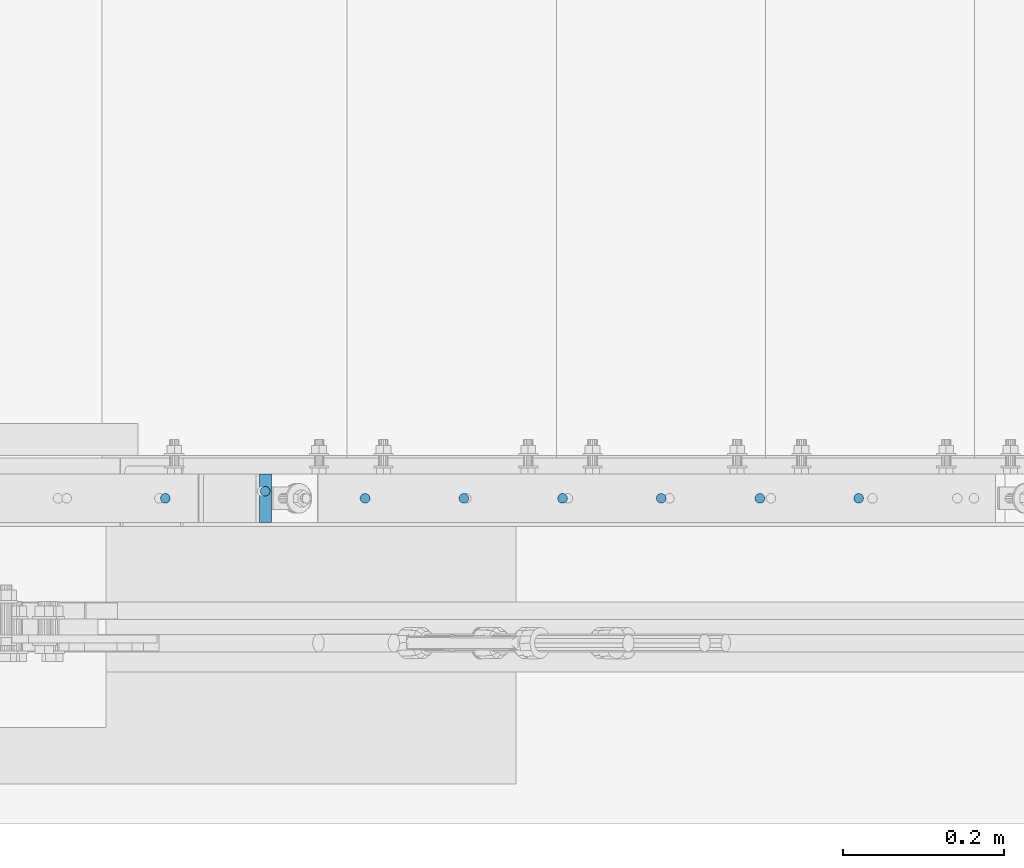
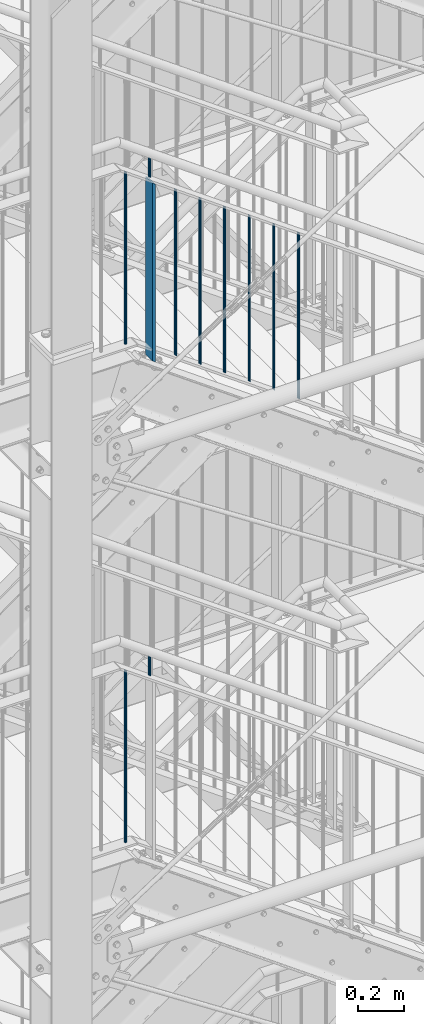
# One storey, part 34 of 821: 11 columns.
"""IFC2X3 building model written with IfcOpenShell, lengths in millimetres."""

from ifc_helpers import new_model, entity, si_unit, converted_unit, frame, origin, origin_with_axes, origin_2d, place, context, project, spatial, rectangle, circle, extrude, clip, halfspace, material, element, save


model = new_model("IFC2X3")

# Units and contexts
model_context = context("Model", 3, precision=1e-09, world=origin_with_axes())
ifc_project = project(units=[si_unit("LENGTHUNIT", "METRE", prefix="MILLI"), si_unit("AREAUNIT", "SQUARE_METRE"), si_unit("VOLUMEUNIT", "CUBIC_METRE"), converted_unit("PLANEANGLEUNIT", "DEGREE", entity("IfcPlaneAngleMeasure", 0.01745329), si_unit("PLANEANGLEUNIT", "RADIAN"), dimensions=[0, 0, 0, 0, 0, 0, 0])], contexts=[model_context])

# Site, building, storey
site_placement = place(None, origin_with_axes())
site = spatial("IfcSite", under=ifc_project, at=site_placement, Name="Cnopf'sche Kinderklinik", CompositionType="ELEMENT")
building_placement = place(site_placement, origin_with_axes())
building = spatial("IfcBuilding", under=site, at=building_placement, Name="Struktur 1", CompositionType="ELEMENT")
storey_placement = place(building_placement, origin_with_axes())
storey = spatial("IfcBuildingStorey", under=building, at=storey_placement, Name="Default Storey", CompositionType="ELEMENT", Elevation=0.0)

# Columns
ifc_material = material(Name="S235JR")
column_1_placement = place(None, frame((5270.541831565, 4526.736971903, 10939.508705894), z_axis=(0.0, 0.0, 1.0), x_axis=(-1.0, 0.0, 0.0)))
element("IfcColumn", 1, at=column_1_placement, inside=storey, material=ifc_material, Name="Railing_Picket_Landing#76", ObjectType="Railing_Picket_Landing#76", context=model_context, shape_type="Clipping", body=[
    clip(extrude(circle(Radius=6.0, at=origin_2d()), origin(), (0.0, 0.0, -1.0), 917.508705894), halfspace(frame((-1728.344233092, 4526.736971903, -1260.198190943), z_axis=(0.585945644, 0.0, -0.810350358), x_axis=(0.0, 1.0, 0.0)), True)),
])
column_2_placement = place(None, frame((5394.791831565, 4535.536971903, 10962.006739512), z_axis=(0.0, 0.0, 1.0), x_axis=(0.0, 1.0, 0.0)))
element("IfcColumn", 2, at=column_2_placement, inside=storey, material=ifc_material, Name="Bar#11", ObjectType="Bar#11", context=model_context, shape_type="Clipping", body=[
    clip(clip(extrude(circle(Radius=6.0, at=origin_2d()), origin(), (0.0, 0.0, -1.0), 120.942253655), halfspace(frame((-4535.536971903, -1609.954861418, -1274.591100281), z_axis=(0.0, -0.585945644, 0.810350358), x_axis=(1.0, 0.0, 0.0)), True)), halfspace(frame((-4535.536971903, -1657.435815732, -1208.925950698), z_axis=(0.0, 0.585945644, -0.810350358), x_axis=(-1.0, 0.0, 0.0)), True)),
])
column_3_placement = place(None, frame((5394.791831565, 4526.736971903, 13504.573032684), z_axis=(0.0, 0.0, 1.0), x_axis=(-1.0, 0.0, 0.0)))
element("IfcColumn", 3, at=column_3_placement, inside=storey, material=ifc_material, Name="Railing_Post_Stair#11", ObjectType="Railing_Post_Stair#11", context=model_context, shape_type="Clipping", body=[
    clip(clip(extrude(rectangle(XDim=15.0, YDim=60.0, at=origin_2d()), origin(), (0.0, 0.0, -1.0), 1013.129684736), halfspace(frame((-2398.549421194, 4526.736971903, -2706.03395139), z_axis=(-0.585213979, 0.0, 0.810878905), x_axis=(0.0, -1.0, 0.0)), True)), halfspace(frame((-2843.122965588, 4526.736971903, -2090.027974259), z_axis=(0.585213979, 0.0, -0.810878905), x_axis=(0.0, 1.0, 0.0)), True)),
])
column_4_placement = place(None, frame((6132.791950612, 4526.736971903, 12944.28469116), z_axis=(0.0, 0.0, 1.0), x_axis=(-1.0, 0.0, 0.0)))
element("IfcColumn", 4, at=column_4_placement, inside=storey, material=ifc_material, Name="Railing_Picket_Stair#70", ObjectType="Railing_Picket_Stair#70", context=model_context, shape_type="Clipping", body=[
    clip(clip(extrude(circle(Radius=6.0, at=origin_2d()), origin(), (0.0, 0.0, -1.0), 896.125751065), halfspace(frame((-2105.122846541, 4526.736971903, -1529.739632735), z_axis=(0.585213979, 0.0, -0.810878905), x_axis=(0.0, 1.0, 0.0)), True)), halfspace(frame((-1689.8100011, 4526.736971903, -2105.201664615), z_axis=(-0.585213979, 0.0, 0.810878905), x_axis=(0.0, -1.0, 0.0)), True)),
])
column_5_placement = place(None, frame((6010.041926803, 4526.736971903, 13032.873787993), z_axis=(0.0, 0.0, 1.0), x_axis=(-1.0, 0.0, 0.0)))
element("IfcColumn", 5, at=column_5_placement, inside=storey, material=ifc_material, Name="Railing_Picket_Stair#71", ObjectType="Railing_Picket_Stair#71", context=model_context, shape_type="Clipping", body=[
    clip(clip(extrude(circle(Radius=6.0, at=origin_2d()), origin(), (0.0, 0.0, -1.0), 896.125751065), halfspace(frame((-2227.87287035, 4526.736971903, -1618.328729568), z_axis=(0.585213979, 0.0, -0.810878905), x_axis=(0.0, 1.0, 0.0)), True)), halfspace(frame((-1812.56002491, 4526.736971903, -2193.790761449), z_axis=(-0.585213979, 0.0, 0.810878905), x_axis=(0.0, -1.0, 0.0)), True)),
])
column_6_placement = place(None, frame((5887.291902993, 4526.736971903, 13121.462884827), z_axis=(0.0, 0.0, 1.0), x_axis=(-1.0, 0.0, 0.0)))
element("IfcColumn", 6, at=column_6_placement, inside=storey, material=ifc_material, Name="Railing_Picket_Stair#72", ObjectType="Railing_Picket_Stair#72", context=model_context, shape_type="Clipping", body=[
    clip(clip(extrude(circle(Radius=6.0, at=origin_2d()), origin(), (0.0, 0.0, -1.0), 896.125751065), halfspace(frame((-2350.62289416, 4526.736971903, -1706.917826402), z_axis=(0.585213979, 0.0, -0.810878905), x_axis=(0.0, 1.0, 0.0)), True)), halfspace(frame((-1935.310048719, 4526.736971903, -2282.379858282), z_axis=(-0.585213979, 0.0, 0.810878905), x_axis=(0.0, -1.0, 0.0)), True)),
])
column_7_placement = place(None, frame((5764.541879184, 4526.736971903, 13210.05198166), z_axis=(0.0, 0.0, 1.0), x_axis=(-1.0, 0.0, 0.0)))
element("IfcColumn", 7, at=column_7_placement, inside=storey, material=ifc_material, Name="Railing_Picket_Stair#73", ObjectType="Railing_Picket_Stair#73", context=model_context, shape_type="Clipping", body=[
    clip(clip(extrude(circle(Radius=6.0, at=origin_2d()), origin(), (0.0, 0.0, -1.0), 896.125751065), halfspace(frame((-2473.372917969, 4526.736971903, -1795.506923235), z_axis=(0.585213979, 0.0, -0.810878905), x_axis=(0.0, 1.0, 0.0)), True)), halfspace(frame((-2058.060072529, 4526.736971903, -2370.968955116), z_axis=(-0.585213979, 0.0, 0.810878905), x_axis=(0.0, -1.0, 0.0)), True)),
])
column_8_placement = place(None, frame((5641.791855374, 4526.736971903, 13298.641078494), z_axis=(0.0, 0.0, 1.0), x_axis=(-1.0, 0.0, 0.0)))
element("IfcColumn", 8, at=column_8_placement, inside=storey, material=ifc_material, Name="Railing_Picket_Stair#74", ObjectType="Railing_Picket_Stair#74", context=model_context, shape_type="Clipping", body=[
    clip(clip(extrude(circle(Radius=6.0, at=origin_2d()), origin(), (0.0, 0.0, -1.0), 896.125751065), halfspace(frame((-2596.122941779, 4526.736971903, -1884.096020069), z_axis=(0.585213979, 0.0, -0.810878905), x_axis=(0.0, 1.0, 0.0)), True)), halfspace(frame((-2180.810096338, 4526.736971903, -2459.558051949), z_axis=(-0.585213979, 0.0, 0.810878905), x_axis=(0.0, -1.0, 0.0)), True)),
])
column_9_placement = place(None, frame((5519.041831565, 4526.736971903, 13387.230175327), z_axis=(0.0, 0.0, 1.0), x_axis=(-1.0, 0.0, 0.0)))
element("IfcColumn", 9, at=column_9_placement, inside=storey, material=ifc_material, Name="Railing_Picket_Stair#75", ObjectType="Railing_Picket_Stair#75", context=model_context, shape_type="Clipping", body=[
    clip(clip(extrude(circle(Radius=6.0, at=origin_2d()), origin(), (0.0, 0.0, -1.0), 896.125751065), halfspace(frame((-2718.872965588, 4526.736971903, -1972.685116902), z_axis=(0.585213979, 0.0, -0.810878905), x_axis=(0.0, 1.0, 0.0)), True)), halfspace(frame((-2303.560120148, 4526.736971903, -2548.147148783), z_axis=(-0.585213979, 0.0, 0.810878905), x_axis=(0.0, -1.0, 0.0)), True)),
])
column_10_placement = place(None, frame((5270.541831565, 4526.736971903, 13566.573444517), z_axis=(0.0, 0.0, 1.0), x_axis=(-1.0, 0.0, 0.0)))
element("IfcColumn", 10, at=column_10_placement, inside=storey, material=ifc_material, Name="Railing_Picket_Landing#76", ObjectType="Railing_Picket_Landing#76", context=model_context, shape_type="Clipping", body=[
    clip(extrude(circle(Radius=6.0, at=origin_2d()), origin(), (0.0, 0.0, -1.0), 917.573444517), halfspace(frame((-2967.372965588, 4526.736971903, -2152.028386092), z_axis=(0.585213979, 0.0, -0.810878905), x_axis=(0.0, 1.0, 0.0)), True)),
])
column_11_placement = place(None, frame((5394.791831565, 4535.536971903, 13589.234107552), z_axis=(0.0, 0.0, 1.0), x_axis=(0.0, 1.0, 0.0)))
element("IfcColumn", 11, at=column_11_placement, inside=storey, material=ifc_material, Name="Bar#11", ObjectType="Bar#11", context=model_context, shape_type="Clipping", body=[
    clip(clip(extrude(circle(Radius=6.0, at=origin_2d()), origin(), (0.0, 0.0, -1.0), 120.928603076), halfspace(frame((-4535.536971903, -2848.976275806, -2166.578638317), z_axis=(0.0, -0.585213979, 0.810878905), x_axis=(1.0, 0.0, 0.0)), True)), halfspace(frame((-4535.536971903, -2896.428872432, -2100.827800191), z_axis=(0.0, 0.585213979, -0.810878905), x_axis=(-1.0, 0.0, 0.0)), True)),
])

save(model, "model.ifc")
